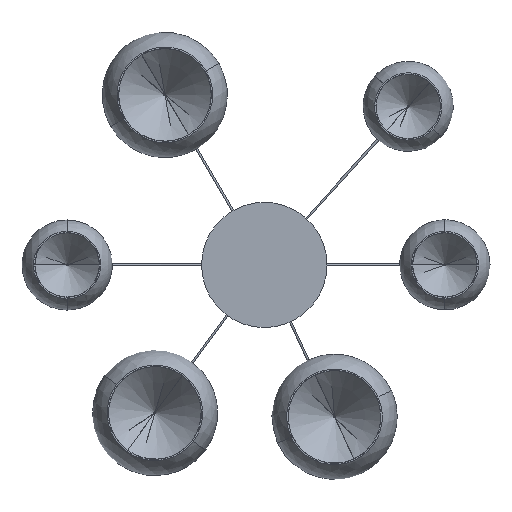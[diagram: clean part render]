
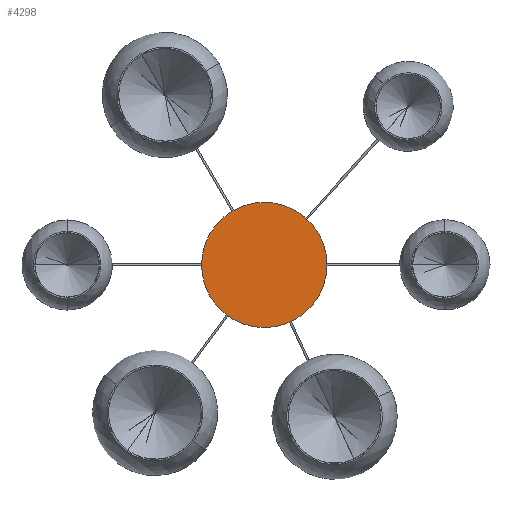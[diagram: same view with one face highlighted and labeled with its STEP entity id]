
A CAD part, front view. The second image highlights one B-rep face of the part: STEP entity #4298.
In plain terms, the highlighted planar face has unit normal (0, -1, 0).
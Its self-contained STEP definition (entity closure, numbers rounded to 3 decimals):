
#329 = AXIS2_PLACEMENT_3D ( 'NONE', #7127, #1992, #4278 ) ;
#331 = EDGE_CURVE ( 'NONE', #5435, #1529, #376, .T. ) ;
#376 = CIRCLE ( 'NONE', #5858, 125. ) ;
#428 = EDGE_LOOP ( 'NONE', ( #7121, #2857 ) ) ;
#1049 = CARTESIAN_POINT ( 'NONE',  ( 0., -17., -125. ) ) ;
#1374 = DIRECTION ( 'NONE',  ( 0., -1., 0. ) ) ;
#1529 = VERTEX_POINT ( 'NONE', #1049 ) ;
#1613 = PLANE ( 'NONE',  #2864 ) ;
#1992 = DIRECTION ( 'NONE',  ( 0., -1., 0. ) ) ;
#2246 = DIRECTION ( 'NONE',  ( 0., 0., -1. ) ) ;
#2857 = ORIENTED_EDGE ( 'NONE', *, *, #331, .T. ) ;
#2864 = AXIS2_PLACEMENT_3D ( 'NONE', #3973, #4503, #2246 ) ;
#3973 = CARTESIAN_POINT ( 'NONE',  ( 125., -17., 0. ) ) ;
#4239 = EDGE_CURVE ( 'NONE', #1529, #5435, #6473, .T. ) ;
#4278 = DIRECTION ( 'NONE',  ( 0., 0., -1. ) ) ;
#4298 = ADVANCED_FACE ( 'NONE', ( #7308 ), #1613, .T. ) ;
#4503 = DIRECTION ( 'NONE',  ( 0., -1., 0. ) ) ;
#4750 = DIRECTION ( 'NONE',  ( 0., 0., -1. ) ) ;
#5313 = CARTESIAN_POINT ( 'NONE',  ( 0., -17., 0. ) ) ;
#5435 = VERTEX_POINT ( 'NONE', #6736 ) ;
#5858 = AXIS2_PLACEMENT_3D ( 'NONE', #5313, #1374, #4750 ) ;
#6473 = CIRCLE ( 'NONE', #329, 125. ) ;
#6736 = CARTESIAN_POINT ( 'NONE',  ( 0., -17., 125. ) ) ;
#7121 = ORIENTED_EDGE ( 'NONE', *, *, #4239, .T. ) ;
#7127 = CARTESIAN_POINT ( 'NONE',  ( 0., -17., 0. ) ) ;
#7308 = FACE_OUTER_BOUND ( 'NONE', #428, .T. ) ;
